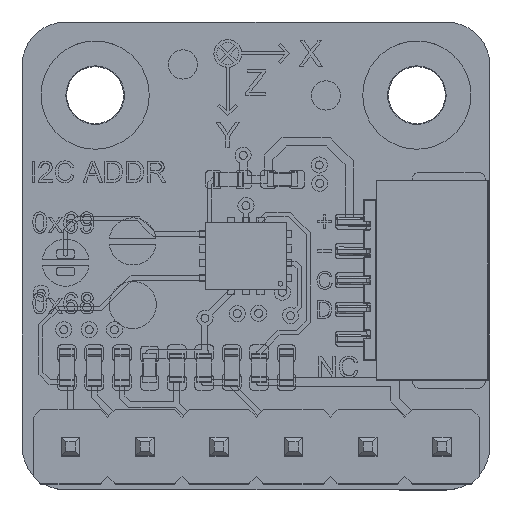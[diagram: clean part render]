
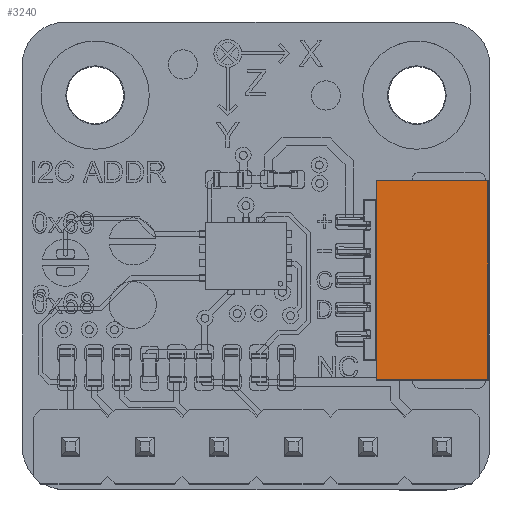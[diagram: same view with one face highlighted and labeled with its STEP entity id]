
A CAD part, top view. The second image highlights one B-rep face of the part: STEP entity #3240.
In plain terms, the highlighted planar face has unit normal (0, 0, 1).
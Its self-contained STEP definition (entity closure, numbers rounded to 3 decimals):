
#3240=ADVANCED_FACE('',(#6127),#45045,.T.);
#6127=FACE_OUTER_BOUND('',#9193,.T.);
#9193=EDGE_LOOP('',(#19569,#19570,#19571,#19572,#19573,#19574));
#19569=ORIENTED_EDGE('',*,*,#28620,.F.);
#19570=ORIENTED_EDGE('',*,*,#28618,.F.);
#19571=ORIENTED_EDGE('',*,*,#28621,.T.);
#19572=ORIENTED_EDGE('',*,*,#28622,.F.);
#19573=ORIENTED_EDGE('',*,*,#28619,.F.);
#19574=ORIENTED_EDGE('',*,*,#28617,.F.);
#28617=EDGE_CURVE('',#41670,#41671,#34368,.T.);
#28618=EDGE_CURVE('',#41672,#41673,#34369,.T.);
#28619=EDGE_CURVE('',#41671,#41674,#34370,.T.);
#28620=EDGE_CURVE('',#41673,#41670,#34371,.T.);
#28621=EDGE_CURVE('',#41672,#41675,#34372,.T.);
#28622=EDGE_CURVE('',#41674,#41675,#34373,.T.);
#34368=B_SPLINE_CURVE_WITH_KNOTS('',1,(#75412,#75413),.UNSPECIFIED.,.F.,
 .F.,(2,2),(0.02,3.818),.UNSPECIFIED.);
#34369=B_SPLINE_CURVE_WITH_KNOTS('',1,(#75414,#75415),.UNSPECIFIED.,.F.,
 .F.,(2,2),(0.02,3.818),.UNSPECIFIED.);
#34370=B_SPLINE_CURVE_WITH_KNOTS('',1,(#75416,#75417),.UNSPECIFIED.,.F.,
 .F.,(2,2),(0.02,0.674),.UNSPECIFIED.);
#34371=B_SPLINE_CURVE_WITH_KNOTS('',1,(#75418,#75419),.UNSPECIFIED.,.F.,
 .F.,(2,2),(0.02,6.82),.UNSPECIFIED.);
#34372=B_SPLINE_CURVE_WITH_KNOTS('',1,(#75420,#75421),.UNSPECIFIED.,.F.,
 .F.,(2,2),(0.02,0.674),.UNSPECIFIED.);
#34373=B_SPLINE_CURVE_WITH_KNOTS('',1,(#75422,#75423),.UNSPECIFIED.,.F.,
 .F.,(2,2),(0.,5.493),.UNSPECIFIED.);
#41670=VERTEX_POINT('',#75166);
#41671=VERTEX_POINT('',#75167);
#41672=VERTEX_POINT('',#75168);
#41673=VERTEX_POINT('',#75169);
#41674=VERTEX_POINT('',#75170);
#41675=VERTEX_POINT('',#75171);
#45045=PLANE('',#48678);
#48678=AXIS2_PLACEMENT_3D('',#74545,#53465,$);
#53465=DIRECTION('',(0.,0.,1.));
#74545=CARTESIAN_POINT('',(3.685,2.59,4.665));
#75166=CARTESIAN_POINT('',(7.925,-4.23,4.665));
#75167=CARTESIAN_POINT('',(4.126,-4.23,4.665));
#75168=CARTESIAN_POINT('',(4.126,2.57,4.665));
#75169=CARTESIAN_POINT('',(7.925,2.57,4.665));
#75170=CARTESIAN_POINT('',(4.126,-3.576,4.665));
#75171=CARTESIAN_POINT('',(4.126,1.916,4.665));
#75412=CARTESIAN_POINT('',(7.925,-4.23,4.665));
#75413=CARTESIAN_POINT('',(4.126,-4.23,4.665));
#75414=CARTESIAN_POINT('',(4.126,2.57,4.665));
#75415=CARTESIAN_POINT('',(7.925,2.57,4.665));
#75416=CARTESIAN_POINT('',(4.126,-4.23,4.665));
#75417=CARTESIAN_POINT('',(4.126,-3.576,4.665));
#75418=CARTESIAN_POINT('',(7.925,2.57,4.665));
#75419=CARTESIAN_POINT('',(7.925,-4.23,4.665));
#75420=CARTESIAN_POINT('',(4.126,2.57,4.665));
#75421=CARTESIAN_POINT('',(4.126,1.916,4.665));
#75422=CARTESIAN_POINT('',(4.126,-3.576,4.665));
#75423=CARTESIAN_POINT('',(4.126,1.916,4.665));
